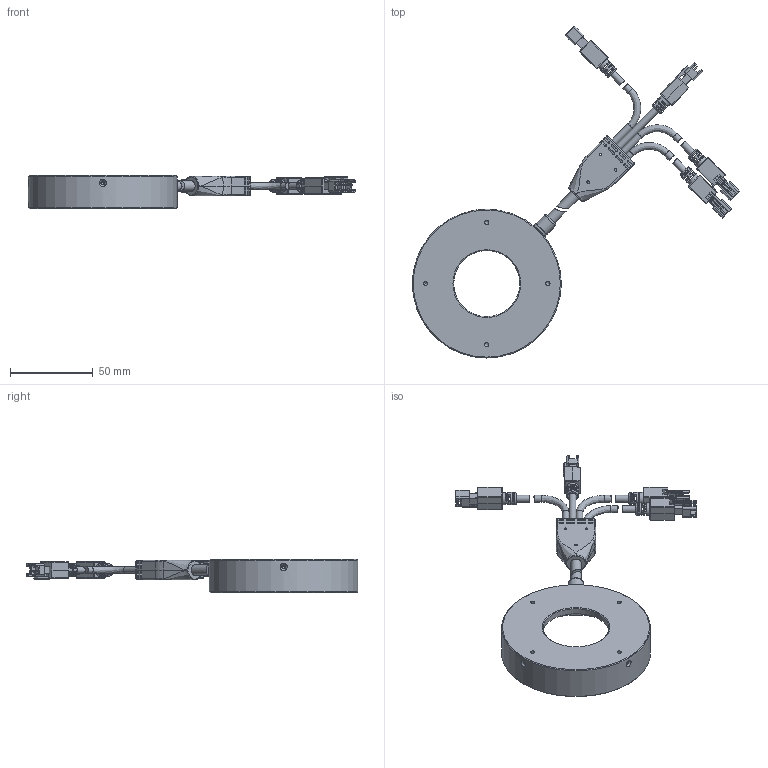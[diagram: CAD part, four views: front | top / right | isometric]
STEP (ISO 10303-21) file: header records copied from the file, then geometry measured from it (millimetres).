
FILE_DESCRIPTION (( 'STEP AP214' ), '1' );
FILE_NAME ('OPT-MSRI9030-X-V1.0尨砩芞.STEP', '2025-02-12T02:35:39', ( '' ), ( '' ), 'SwSTEP 2.0', 'SolidWorks 2016', '' );
FILE_SCHEMA (( 'AUTOMOTIVE_DESIGN' ));
Length unit declared in the file: millimetre
Products named in the file (1): OPT-MSRI9030-X-V1.0尨砩芞
Bounding box: 197.96 x 200.86 x 20 mm (x, y, z)
Surface area: 37524.5 mm2 (no closed solid volume)
Topology: 0 solids, 28 shells, 932 faces, 2633 edges, 1699 vertices
Faces by surface type: plane 488, cylinder 308, cone 63, bspline 58, torus 15
Full cylindrical faces by diameter (mm): 1.1 x4, 1.5 x3, 1.6 x4, 2 x4, 2.4 x4, 2.5 x4, 4.1 x10, 6.4 x2, 7.5 x4, 8.6 x1, 9.3 x1, 9.8 x1, 40 x1, 43.6 x1, 81.8 x1, 90 x1
Entity records: 46970 total; most frequent: CARTESIAN_POINT 14719, ORIENTED_EDGE 4597, DIRECTION 4103, EDGE_CURVE 2482, VERTEX_POINT 1650, VECTOR 1475, LINE 1475, AXIS2_PLACEMENT_3D 1314
